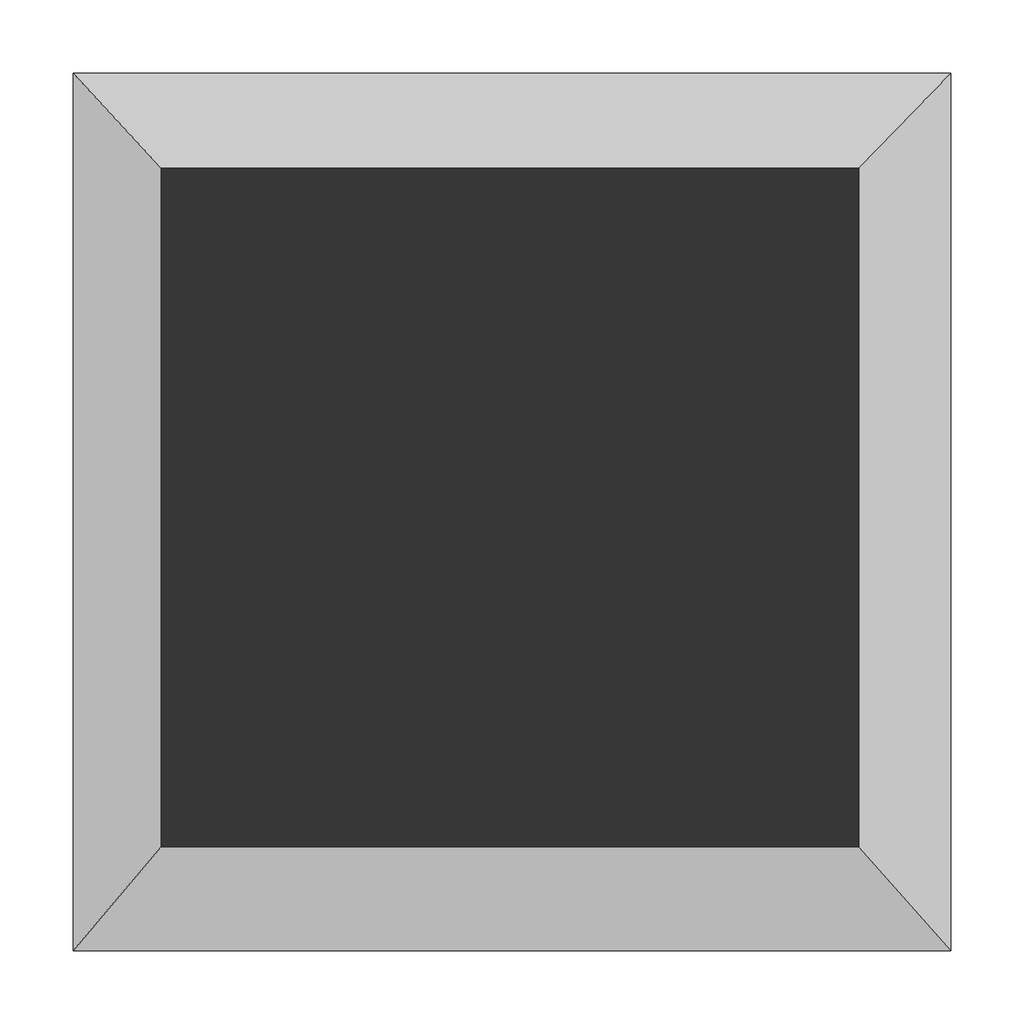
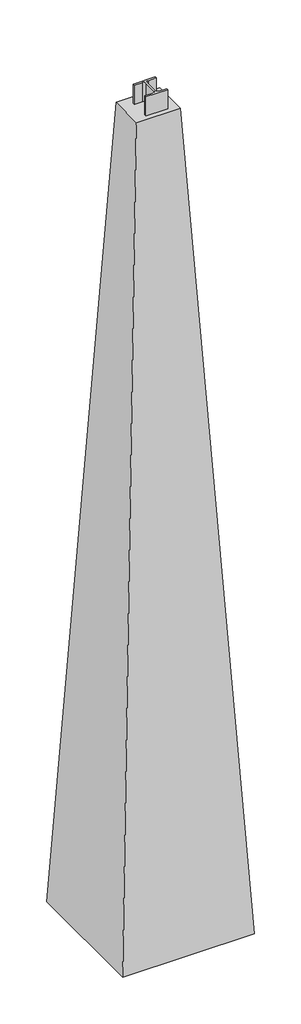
# One storey: 2 columns.
"""IFC4 building model written with IfcOpenShell, lengths in millimetres."""

from ifc_helpers import new_model, si_unit, origin, place, context, project, spatial, transform, mapped, element, save
from components import column_9f330081, h100x100_6f83902f

model = new_model("IFC4")

# Units and contexts
model_context = context("Model", 3, world=origin())
ifc_project = project(units=[si_unit("LENGTHUNIT", "METRE", prefix="MILLI")], contexts=[model_context])

# Site, building, storey
site = spatial("IfcSite", under=ifc_project)
building = spatial("IfcBuilding", under=site)
storey = spatial("IfcBuildingStorey", under=building, Name="樓層 1", Elevation=0.0)

# Columns
placement = place(None, origin())
column_shape = column_9f330081(model_context)
element("IfcColumn", 1, ObjectType="族群6 : 族群6", at=placement, inside=storey, context=model_context, shape_type="MappedRepresentation", body=[
    mapped(column_shape, transform((117.9375647, 3198.847619, 0.0), x_axis=(1.0, 0.0, 0.0), y_axis=(0.0, 1.0, 0.0), z_axis=(0.0, 0.0, 1.0))),
])
h100x100_shape = h100x100_6f83902f(model_context)
element("IfcColumn", 2, ObjectType="H 型鋼柱 : H100x100", at=placement, inside=storey, context=model_context, shape_type="MappedRepresentation", body=[
    mapped(h100x100_shape, transform((117.9375647, 3198.847619, 0.0), x_axis=(1.0, 0.0, 0.0), y_axis=(0.0, 1.0, 0.0), z_axis=(0.0, 0.0, 1.0))),
])

save(model, "model.ifc")
